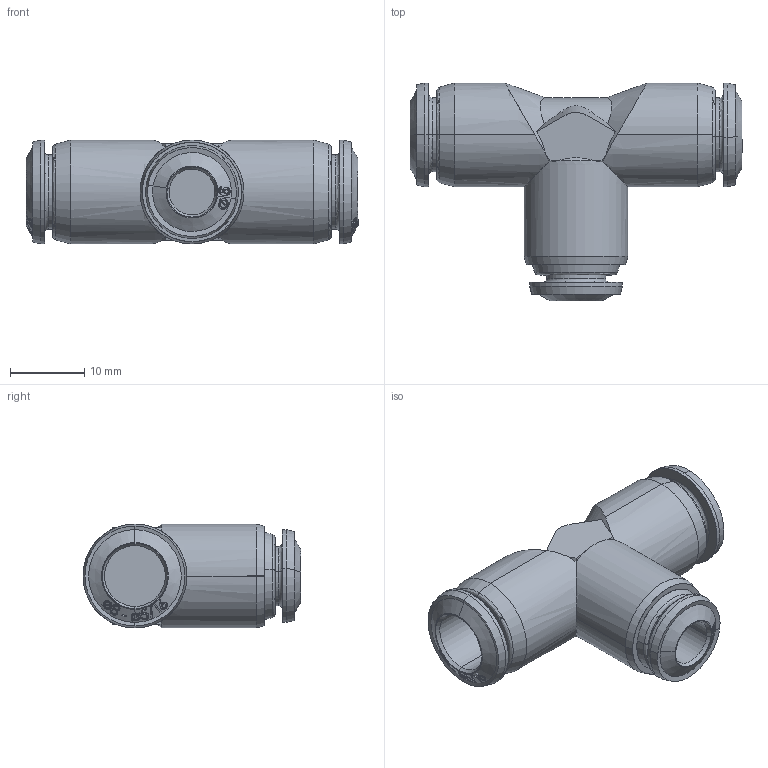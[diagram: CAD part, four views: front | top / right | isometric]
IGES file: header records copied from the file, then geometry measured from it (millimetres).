
Start section: SolidWorks IGES file using analytic representation for surfaces
Global section: file name: K:\Disegni Esecutivi\SERIE 55000\ASSIEMI_55000\55230\ASSIEMI_PIENI_55230\5523000010A.IGS; native system: SolidWorks 2011; preprocessor: SolidWorks 2011; author: Cad01; date: 120714.115313; units: millimetre
Bounding box: 44.8 x 29.4 x 14 mm (x, y, z)
Surface area: 3706 mm2 (no closed solid volume)
Topology: 0 solids, 0 shells, 372 faces, 4144 edges, 4144 vertices
Faces by surface type: bspline 270, revolution 102
